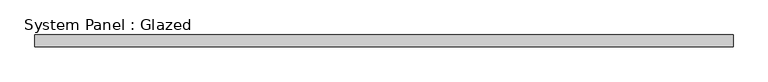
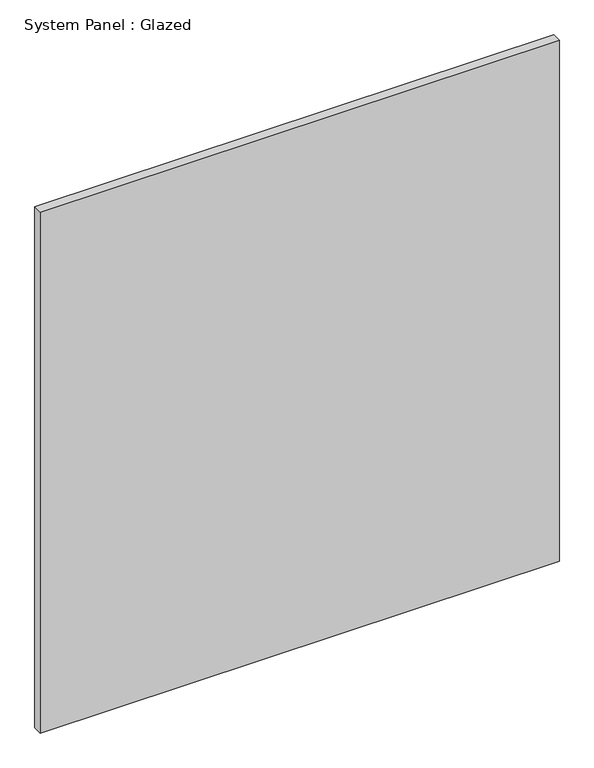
"""IFC4 building model written with IfcOpenShell, lengths in millimetres: plate geometry, System Panel : Glazed."""

import ifcopenshell
import ifcopenshell.guid

model = None  # the IFC model being written
_history = None  # IfcOwnerHistory: only IFC2X3 demands one
_inside = {}  # id of a spatial element -> (the spatial element, [elements in it])
_under = {}  # id of a project, library or spatial element -> (it, [spatial elements below it])
_declared = {}  # id of a project -> (the project, [libraries it declares])
_typed = {}  # id of a type object -> (the type object, [elements of that type])
_made_of = {}  # id of a material, layer set ... -> (it, [elements and type objects made of it])


def new_model(schema):
    """Start an empty IFC model of exactly this schema.

    Asked for "IFC4X3", IfcOpenShell would pick the latest addendum, in which some entities
    have other attributes; the version numbers below select the first issue.
    IFC2X3 requires an IfcOwnerHistory on every rooted entity: one is made here for all.
    """
    global model, _history
    if schema == "IFC4X3":
        model = ifcopenshell.file(schema_version=(4, 3, 0, 0))
    else:
        model = ifcopenshell.file(schema=schema)
    _inside.clear()
    _under.clear()
    _declared.clear()
    _typed.clear()
    _made_of.clear()
    _history = None
    if model.schema == "IFC2X3":
        org = make("IfcOrganization", Name="unknown")
        user = make(
            "IfcPersonAndOrganization",
            ThePerson=make("IfcPerson", FamilyName="unknown"),
            TheOrganization=org,
        )
        app = make(
            "IfcApplication",
            ApplicationDeveloper=org,
            Version="unknown",
            ApplicationFullName="unknown",
            ApplicationIdentifier="unknown",
        )
        _history = make(
            "IfcOwnerHistory",
            OwningUser=user,
            OwningApplication=app,
            ChangeAction="ADDED",
            CreationDate=0,
        )
    return model


def make(cls, **values):
    """One entity of the class cls with the attributes given. An attribute that is None is left unset."""
    return model.create_entity(
        cls, **{name: value for name, value in values.items() if value is not None}
    )


def rooted(cls, **values):
    """An entity with a GlobalId (a new one), such as an element, a storey or a relation."""
    return make(cls, GlobalId=ifcopenshell.guid.new(), OwnerHistory=_history, **values)


def si_unit(unit_type, name, prefix=None):
    """IfcSIUnit, for example si_unit("LENGTHUNIT", "METRE", prefix="MILLI")."""
    return make("IfcSIUnit", UnitType=unit_type, Prefix=prefix, Name=name)


def assignment(units):
    """IfcUnitAssignment: the units of a project."""
    return None if units is None else make("IfcUnitAssignment", Units=units)


def point(xyz):
    """IfcCartesianPoint."""
    return None if xyz is None else make("IfcCartesianPoint", Coordinates=xyz)


def direction(xyz):
    """IfcDirection."""
    return None if xyz is None else make("IfcDirection", DirectionRatios=xyz)


def frame(location, z_axis=None, x_axis=None):
    """IfcAxis2Placement3D, a coordinate frame: its origin and axes. An axis left out is left unset."""
    return make(
        "IfcAxis2Placement3D",
        Location=point(location),
        Axis=direction(z_axis),
        RefDirection=direction(x_axis),
    )


def origin():
    """The frame at (0, 0, 0) with its axes left unset."""
    return frame((0.0, 0.0, 0.0))


def origin_with_axes():
    """The frame at (0, 0, 0) with the z axis (0, 0, 1) and the x axis (1, 0, 0) written out."""
    return frame((0.0, 0.0, 0.0), z_axis=(0.0, 0.0, 1.0), x_axis=(1.0, 0.0, 0.0))


def place(relative_to, where):
    """IfcLocalPlacement: puts the frame where relative to a parent placement (None: the world)."""
    return make(
        "IfcLocalPlacement", PlacementRelTo=relative_to, RelativePlacement=where
    )


def context(
    kind, dimensions, precision=None, world=None, true_north=None, identifier=None
):
    """IfcGeometricRepresentationContext, for example the 3D "Model" context."""
    return make(
        "IfcGeometricRepresentationContext",
        ContextIdentifier=identifier,
        ContextType=kind,
        CoordinateSpaceDimension=dimensions,
        Precision=precision,
        WorldCoordinateSystem=world,
        TrueNorth=true_north,
    )


def project(units=None, contexts=None):
    """IfcProject with its units and contexts."""
    return rooted(
        "IfcProject",
        Name="project",
        RepresentationContexts=contexts,
        UnitsInContext=assignment(units),
    )


def spatial(cls, under=None, at=None, **own):
    """A site, building, storey or space (cls), placed at a placement, below another one or the project."""
    s = rooted(cls, ObjectPlacement=at, **own)
    if under is not None:
        _under.setdefault(under.id(), (under, []))[1].append(s)
    return s


def polyline(points):
    """IfcPolyline through the points."""
    return make("IfcPolyline", Points=[point(p) for p in points])


def outline(outer, holes=None, kind="AREA"):
    """IfcArbitraryClosedProfileDef: a profile drawn as a closed curve; with holes, ...WithVoids."""
    if holes is None:
        return make("IfcArbitraryClosedProfileDef", ProfileType=kind, OuterCurve=outer)
    return make(
        "IfcArbitraryProfileDefWithVoids",
        ProfileType=kind,
        OuterCurve=outer,
        InnerCurves=holes,
    )


def extrude(swept, where, along, depth):
    """IfcExtrudedAreaSolid: the profile swept, set in the frame where, extruded along a direction by depth."""
    return make(
        "IfcExtrudedAreaSolid",
        SweptArea=swept,
        Position=where,
        ExtrudedDirection=direction(along),
        Depth=depth,
    )


def shape(context_of_items, identifier, shape_type, items):
    """IfcShapeRepresentation: the items that make up one representation, for example the "Body"."""
    return make(
        "IfcShapeRepresentation",
        ContextOfItems=context_of_items,
        RepresentationIdentifier=identifier,
        RepresentationType=shape_type,
        Items=items,
    )


def source(mapping_origin, context_of_items, identifier, shape_type, items):
    """IfcRepresentationMap: a shape defined once, which mapped items show again and again."""
    return make(
        "IfcRepresentationMap",
        MappingOrigin=mapping_origin,
        MappedRepresentation=shape(context_of_items, identifier, shape_type, items),
    )


def transform(
    local_origin,
    x_axis=None,
    y_axis=None,
    z_axis=None,
    scale=None,
    scale2=None,
    scale3=None,
    uniform=True,
):
    """IfcCartesianTransformationOperator3D, or its non-uniform kind. x_axis, y_axis, z_axis: its Axis1, 2, 3."""
    if uniform:
        return make(
            "IfcCartesianTransformationOperator3D",
            Axis1=direction(x_axis),
            Axis2=direction(y_axis),
            LocalOrigin=point(local_origin),
            Scale=scale,
            Axis3=direction(z_axis),
        )
    return make(
        "IfcCartesianTransformationOperator3DnonUniform",
        Axis1=direction(x_axis),
        Axis2=direction(y_axis),
        LocalOrigin=point(local_origin),
        Scale=scale,
        Axis3=direction(z_axis),
        Scale2=scale2,
        Scale3=scale3,
    )


def mapped(mapping_source, mapping_target):
    """IfcMappedItem: shows the shape of a source again, moved by a transform."""
    return make(
        "IfcMappedItem", MappingSource=mapping_source, MappingTarget=mapping_target
    )


def made_of(thing, what):
    """Note that an element or type object is made of a material, layer set ...; save() writes the relation."""
    if what is not None:
        _made_of.setdefault(what.id(), (what, []))[1].append(thing)
    return thing


def element(
    cls,
    number,
    at=None,
    inside=None,
    cuts=None,
    type_object=None,
    material=None,
    context=None,
    identifier="Body",
    shape_type=None,
    held_by="IfcProductDefinitionShape",
    body=None,
    shapes=None,
    **own,
):
    """One element of the class cls, such as IfcWall. Its Tag is "e" and its number.

    at: its placement. inside: the storey or other place that contains it. cuts: it is an
    opening in that element (IfcRelVoidsElement). A single representation is given by context,
    identifier, shape_type and body (its items); several are given by shapes. held_by: the class
    of the entity that holds the representations. save() writes the other relations.
    """
    e = rooted(cls, Tag="e%d" % number, ObjectPlacement=at, **own)
    if body is not None:
        shapes = [shape(context, identifier, shape_type, body)]
    if shapes is not None:
        e.Representation = make(held_by, Representations=shapes)
    if inside is not None:
        _inside.setdefault(inside.id(), (inside, []))[1].append(e)
    if cuts is not None:
        rooted(
            "IfcRelVoidsElement", RelatingBuildingElement=cuts, RelatedOpeningElement=e
        )
    if type_object is not None:
        _typed.setdefault(type_object.id(), (type_object, []))[1].append(e)
    return made_of(e, material)


def aggregate(whole, parts):
    """IfcRelAggregates: a whole, such as a stair, and the parts it consists of."""
    return rooted("IfcRelAggregates", RelatingObject=whole, RelatedObjects=parts)


def save(model, path):
    """Write the relations noted so far, then the file.

    IfcRelAggregates (storeys below a building ...), IfcRelContainedInSpatialStructure (elements
    in a storey), IfcRelDefinesByType, IfcRelAssociatesMaterial and IfcRelDeclares: one each for
    every whole, place, type object, material and project.
    """
    for whole, parts in _under.values():
        aggregate(whole, parts)
    for where, things in _inside.values():
        rooted(
            "IfcRelContainedInSpatialStructure",
            RelatedElements=things,
            RelatingStructure=where,
        )
    for kind, things in _typed.values():
        rooted("IfcRelDefinesByType", RelatedObjects=things, RelatingType=kind)
    for what, things in _made_of.values():
        rooted("IfcRelAssociatesMaterial", RelatedObjects=things, RelatingMaterial=what)
    for by, libraries in _declared.values():
        rooted("IfcRelDeclares", RelatingContext=by, RelatedDefinitions=libraries)
    model.write(path)


def system_panel_glazed_b8570ad5(model_context):
    return source(origin(), model_context, "Body", "SweptSolid", [
        extrude(outline(polyline([(742.4954406, 19.05), (-742.4954406, 19.05), (-742.4954406, 44.45), (742.4954406, 44.45), (742.4954406, 19.05)])), origin_with_axes(), (0.0, 0.0, 1.0), 1574.8),
    ])


if __name__ == "__main__":
    model = new_model("IFC4")
    model_context = context("Model", 3, world=origin())
    ifc_project = project(units=[si_unit("LENGTHUNIT", "METRE", prefix="MILLI")], contexts=[model_context])
    site = spatial("IfcSite", under=ifc_project)
    building = spatial("IfcBuilding", under=site)
    placement = place(None, origin())
    system_panel_glazed_shape = system_panel_glazed_b8570ad5(model_context)
    element("IfcPlate", 1, ObjectType="System Panel : Glazed", at=placement, inside=building, context=model_context, shape_type="MappedRepresentation", body=[
        mapped(system_panel_glazed_shape, transform((0.0, 0.0, 0.0), x_axis=(1.0, 0.0, 0.0), y_axis=(0.0, 1.0, 0.0), z_axis=(0.0, 0.0, 1.0))),
    ])
    save(model, "model.ifc")
